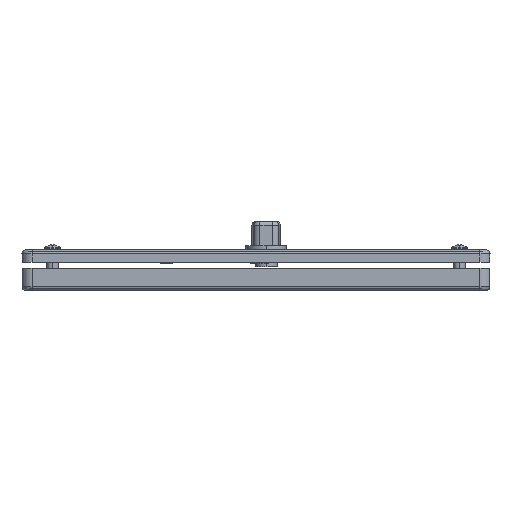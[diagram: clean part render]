
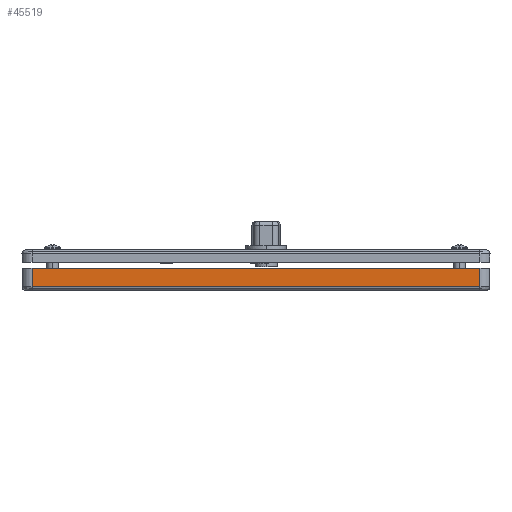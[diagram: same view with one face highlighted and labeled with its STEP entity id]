
A CAD part, left-side view. The second image highlights one B-rep face of the part: STEP entity #45519.
In plain terms, the highlighted planar face has unit normal (-1, 0, 0).
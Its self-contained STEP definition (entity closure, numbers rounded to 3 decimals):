
#32832 = VERTEX_POINT ( 'NONE', #52628 ) ;
#662 = LINE ( 'NONE', #663, #664 ) ;
#663 = CARTESIAN_POINT ( 'NONE',  ( -220., 110., -6. ) ) ;
#664 = VECTOR ( 'NONE', #665, 1000. ) ;
#665 = DIRECTION ( 'NONE',  ( 0., 0., 1. ) ) ;
#82780 = CARTESIAN_POINT ( 'NONE',  ( -220., 110., -10.5 ) ) ;
#83757 = LINE ( 'NONE', #83758, #83759 ) ;
#83758 = CARTESIAN_POINT ( 'NONE',  ( -220., 0., -10.5 ) ) ;
#83759 = VECTOR ( 'NONE', #83760, 1000. ) ;
#83760 = DIRECTION ( 'NONE',  ( 0., 1., 0. ) ) ;
#34622 = EDGE_CURVE ( 'NONE', #32832, #55572, #58576, .T. ) ;
#51774 = LINE ( 'NONE', #51775, #51918 ) ;
#51775 = CARTESIAN_POINT ( 'NONE',  ( -220., 0., -1.5 ) ) ;
#51918 = VECTOR ( 'NONE', #51919, 1000. ) ;
#51919 = DIRECTION ( 'NONE',  ( 0., 1., 0. ) ) ;
#35547 = ORIENTED_EDGE ( 'NONE', *, *, #32539, .T. ) ;
#85369 = VERTEX_POINT ( 'NONE', #82780 ) ;
#52628 = CARTESIAN_POINT ( 'NONE',  ( -220., -110., -1.5 ) ) ;
#85506 = EDGE_CURVE ( 'NONE', #55572, #85369, #83757, .T. ) ;
#135549 = CARTESIAN_POINT ( 'NONE',  ( -220., 110., -1.5 ) ) ;
#119238 = FACE_OUTER_BOUND ( 'NONE', #43747, .T. ) ;
#119239 = PLANE ( 'NONE',  #119240 ) ;
#119240 = AXIS2_PLACEMENT_3D ( 'NONE', #119241, #119242, #119243 ) ;
#119241 = CARTESIAN_POINT ( 'NONE',  ( -220., -114.4, -11.096 ) ) ;
#119242 = DIRECTION ( 'NONE',  ( 1., 0., 0. ) ) ;
#119243 = DIRECTION ( 'NONE',  ( 0., 1., 0. ) ) ;
#38462 = CARTESIAN_POINT ( 'NONE',  ( -220., -110., -10.5 ) ) ;
#55572 = VERTEX_POINT ( 'NONE', #38462 ) ;
#39832 = ORIENTED_EDGE ( 'NONE', *, *, #34622, .F. ) ;
#23921 = ORIENTED_EDGE ( 'NONE', *, *, #85506, .F. ) ;
#138860 = VERTEX_POINT ( 'NONE', #135549 ) ;
#58576 = LINE ( 'NONE', #58577, #58578 ) ;
#140487 = EDGE_CURVE ( 'NONE', #85369, #138860, #662, .T. ) ;
#58577 = CARTESIAN_POINT ( 'NONE',  ( -220., -110., -6. ) ) ;
#58578 = VECTOR ( 'NONE', #58579, 1000. ) ;
#58579 = DIRECTION ( 'NONE',  ( 0., 0., -1. ) ) ;
#43747 = EDGE_LOOP ( 'NONE', ( #39832, #35547, #28179, #23921 ) ) ;
#28179 = ORIENTED_EDGE ( 'NONE', *, *, #140487, .F. ) ;
#45519 = ADVANCED_FACE ( 'NONE', ( #119238 ), #119239, .F. ) ;
#32539 = EDGE_CURVE ( 'NONE', #32832, #138860, #51774, .T. ) ;
